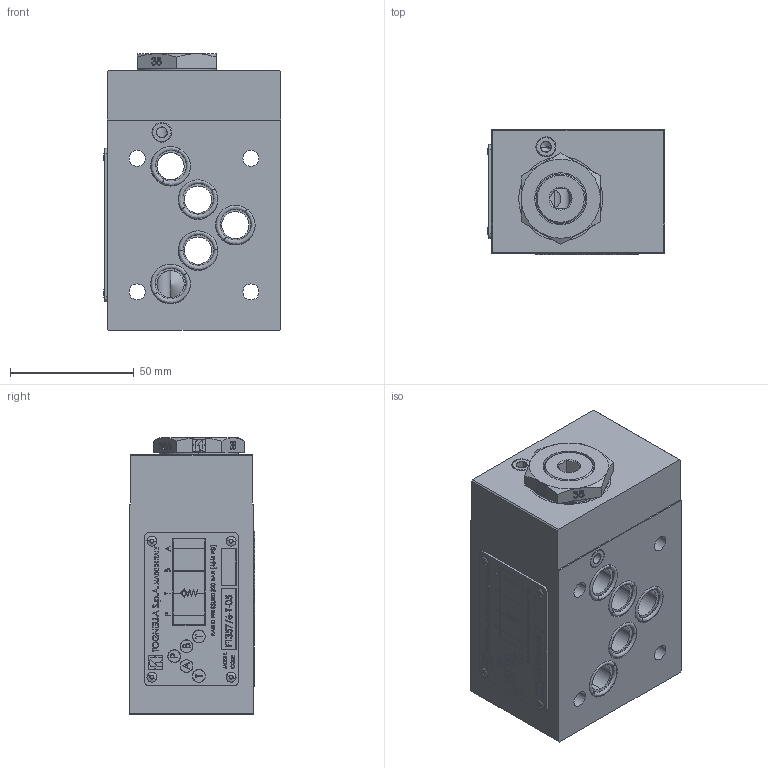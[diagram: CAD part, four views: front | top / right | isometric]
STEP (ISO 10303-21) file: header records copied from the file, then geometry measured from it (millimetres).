
FILE_DESCRIPTION (( 'STEP AP214' ), '1' );
FILE_NAME ('357-6-T-05.STEP', '2019-12-04T07:52:53', ( '' ), ( '' ), 'SwSTEP 2.0', 'SolidWorks 2018', '' );
FILE_SCHEMA (( 'AUTOMOTIVE_DESIGN' ));
Length unit declared in the file: millimetre
Products named in the file (1): 357-6-T-05
Bounding box: 71.66 x 50.61 x 111.8 mm (x, y, z)
Surface area: 50118.2 mm2 (no closed solid volume)
Topology: 0 solids, 34 shells, 715 faces, 3492 edges, 2704 vertices
Faces by surface type: plane 420, bspline 152, cylinder 99, cone 36, sphere 8
Entity records: 57679 total; most frequent: CARTESIAN_POINT 24845, ORIENTED_EDGE 4725, DIRECTION 4065, EDGE_CURVE 3488, VERTEX_POINT 2704, VECTOR 2325, LINE 2325, EDGE_LOOP 928
